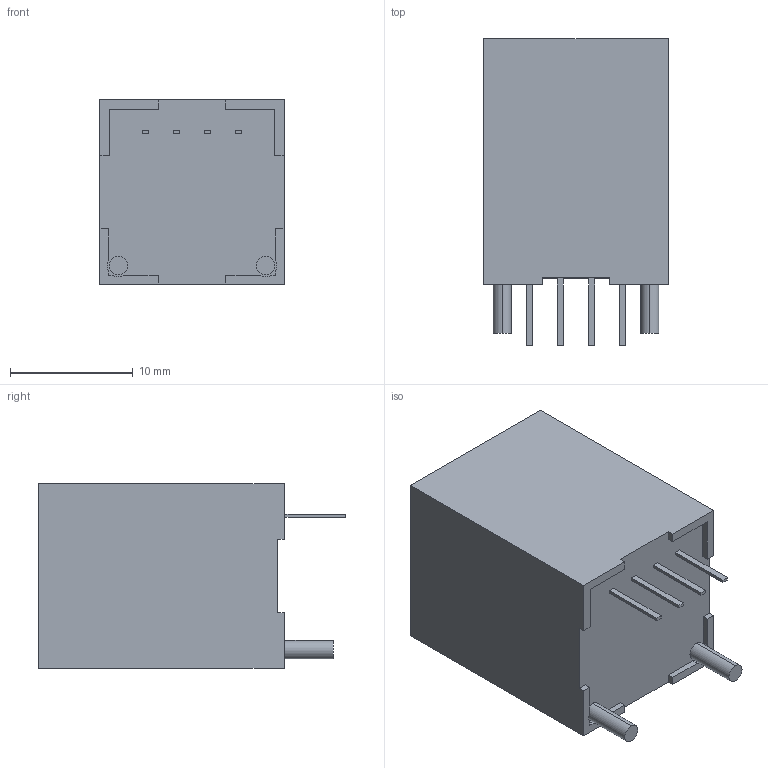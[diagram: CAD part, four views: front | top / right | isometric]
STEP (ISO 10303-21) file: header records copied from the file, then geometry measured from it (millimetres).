
FILE_DESCRIPTION (( 'STEP AP214' ), '1' );
FILE_NAME ('CUI_DEVICES_CS2050BL.step', '2019-10-25T14:20:02', ( '' ), ( '' ), 'SwSTEP 2.0', 'SolidWorks 2019', '' );
FILE_SCHEMA (( 'AUTOMOTIVE_DESIGN' ));
Length unit declared in the file: inch
Products named in the file (1): CUI_DEVICES_CS2050BL
Bounding box: 15 x 25 x 15 mm (x, y, z)
Volume: 4418.4 mm3; surface area: 1732.5 mm2
Topology: 1 solids, 1 shells, 62 faces, 162 edges, 108 vertices
Faces by surface type: plane 52, cylinder 10
Entity records: 2732 total; most frequent: CARTESIAN_POINT 333, ORIENTED_EDGE 324, DIRECTION 308, EDGE_CURVE 162, VECTOR 142, LINE 142, VERTEX_POINT 108, AXIS2_PLACEMENT_3D 83
